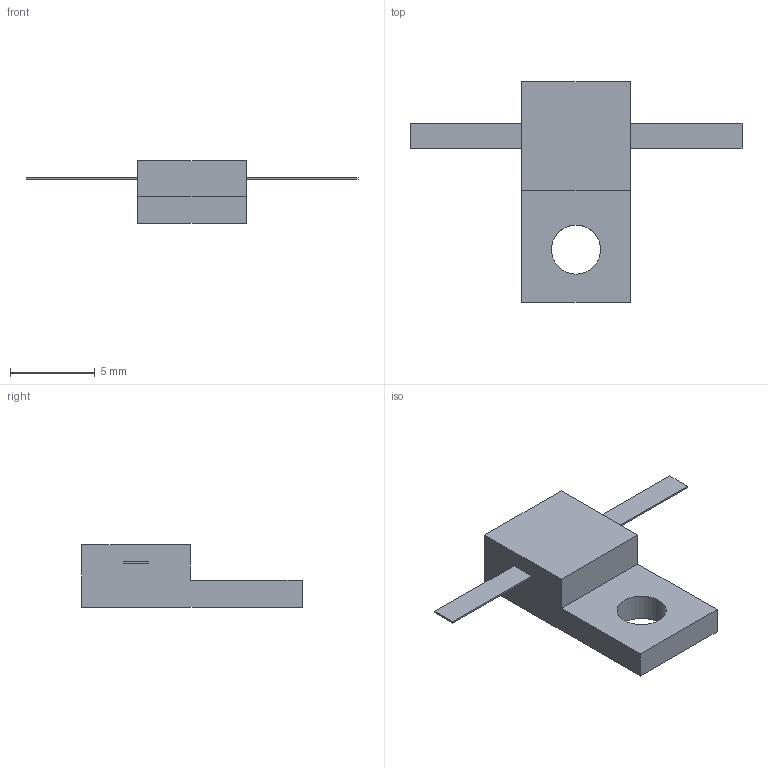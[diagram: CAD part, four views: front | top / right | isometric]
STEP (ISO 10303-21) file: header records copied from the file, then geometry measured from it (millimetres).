
FILE_DESCRIPTION(('STEP AP203'), '1');
FILE_NAME('P1-170-60-13', '', ('UNSPECIFIED'), ('UNSPECIFIED'), 'ASCON STEP Converter 1.6', 'ASCON Math Kernel', '');
FILE_SCHEMA(('CONFIG_CONTROL_DESIGN'));
Length unit declared in the file: millimetre
Bounding box: 19.6 x 13 x 3.7 mm (x, y, z)
Volume: 210.5 mm3; surface area: 325.8 mm2
Topology: 1 solids, 1 shells, 19 faces, 45 edges, 30 vertices
Faces by surface type: plane 18, cylinder 1
Full cylindrical faces by diameter (mm): 2.9 x1
Entity records: 736 total; most frequent: CARTESIAN_POINT 94, ORIENTED_EDGE 88, DIRECTION 86, EDGE_CURVE 44, LINE 42, VECTOR 42, VERTEX_POINT 30, EDGE_LOOP 24
